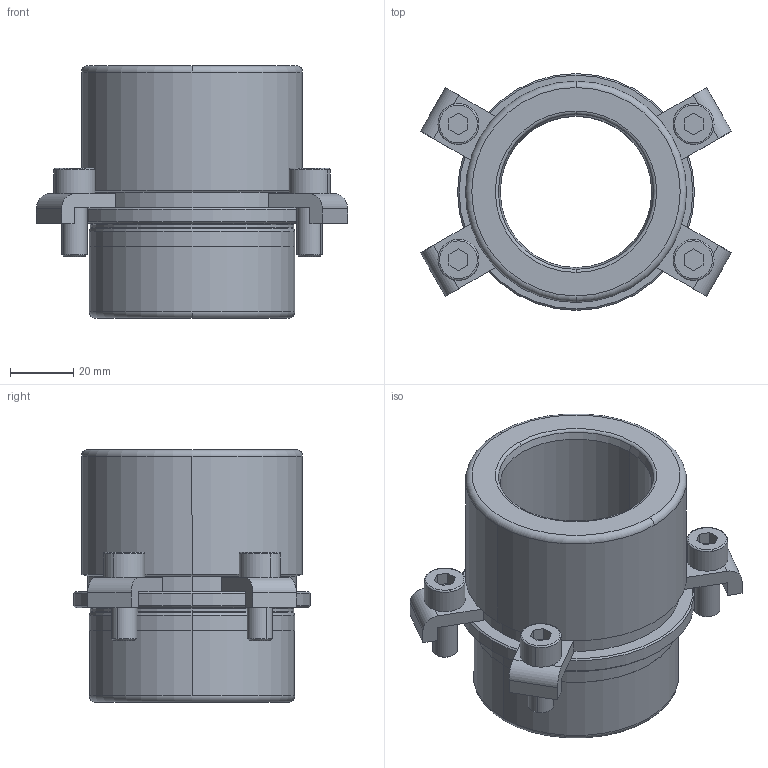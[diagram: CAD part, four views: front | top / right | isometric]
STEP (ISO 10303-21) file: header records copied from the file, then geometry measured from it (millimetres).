
FILE_DESCRIPTION((''),'2;1');
FILE_NAME('B40_040_050.stp','2009-01-05T16:33:02',(''),(''),'Mechanical Desktop 2009','Mechanical Desktop 2009',', , ');
FILE_SCHEMA(('CONFIG_CONTROL_DESIGN'));
Length unit declared in the file: millimetre
Products named in the file (2): Product; blmdl1
Assembly tree (1 placements, depth 2):
  Product
    blmdl1
Bounding box: 98.54 x 75 x 80 mm (x, y, z)
Volume: 160177.8 mm3; surface area: 43402.2 mm2
Topology: 9 solids, 9 shells, 173 faces, 422 edges, 278 vertices
Faces by surface type: plane 73, cylinder 50, cone 22, torus 16, bspline 12
Entity records: 5767 total; most frequent: CARTESIAN_POINT 1403, DIRECTION 966, ORIENTED_EDGE 844, EDGE_CURVE 422, AXIS2_PLACEMENT_3D 381, VERTEX_POINT 278, CIRCLE 218, VECTOR 204
